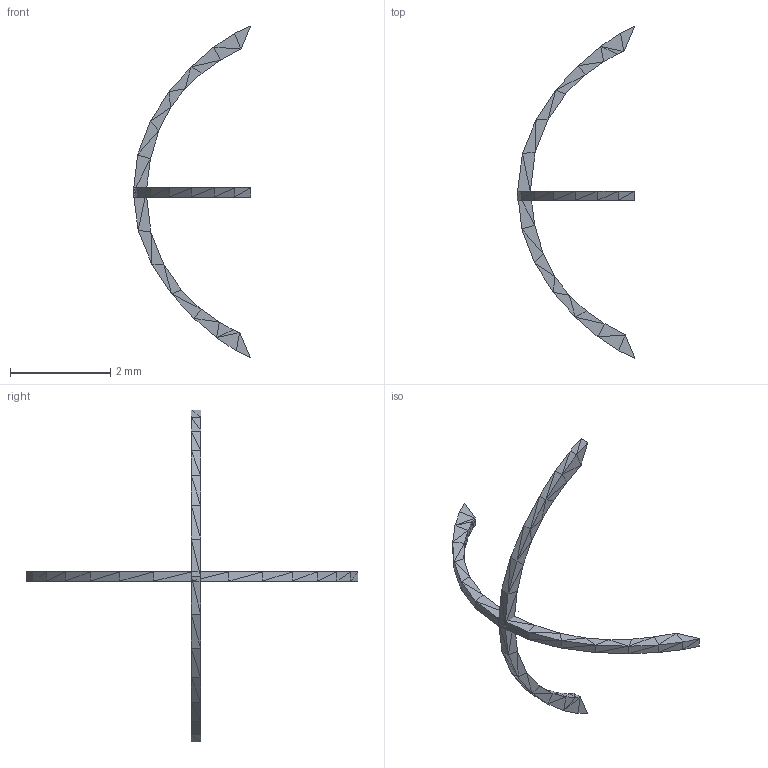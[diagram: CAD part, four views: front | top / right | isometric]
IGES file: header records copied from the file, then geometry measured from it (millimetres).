
Global section: file name: D:\work work Work\JO UNILAMP\RETINA\MMAXI RETINA-5-SH\MINI RETINA-6\mini retina-6.IGS; native system:  3D Studio VIZ R3.0 ; preprocessor: 34H 3D Studio VIZ Iges Exporter R3.0; author: No Author specified; organization: No Organization specified; units: inch
Bounding box: 2.34 x 6.61 x 6.61 mm (x, y, z)
Surface area: 13.9 mm2 (no closed solid volume)
Topology: 0 solids, 0 shells, 520 faces, 2008 edges, 1488 vertices
Faces by surface type: bspline 520
